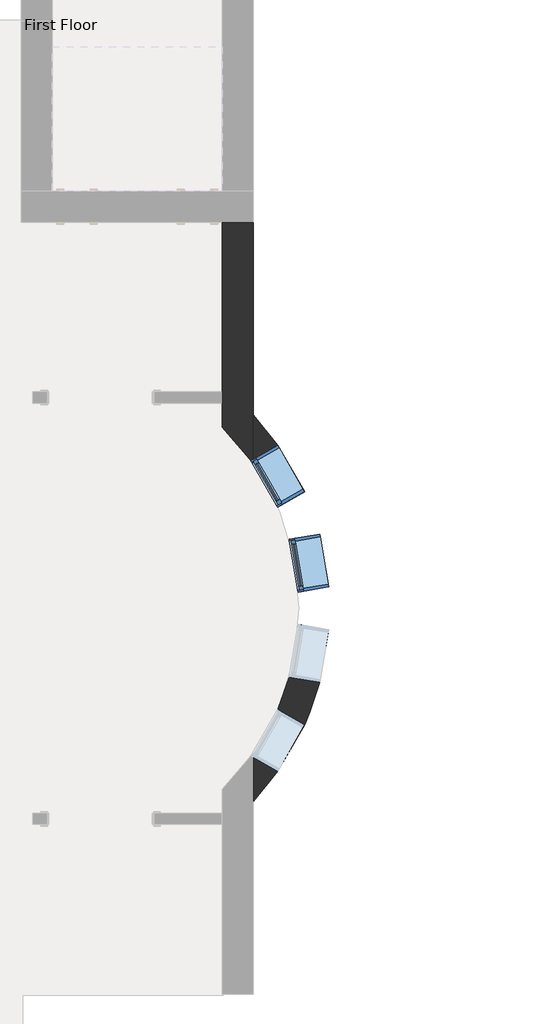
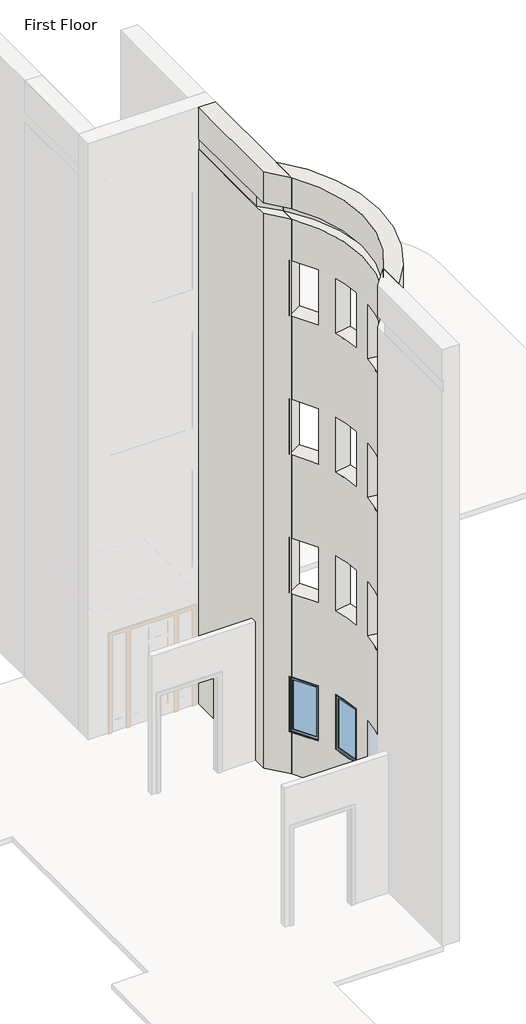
# One storey, part 10 of 23: 2 walls, 2 windows.
"""IFC4 building model written with IfcOpenShell, lengths in millimetres."""

from ifc_helpers import new_model, si_unit, frame, origin, place, context, project, spatial, polyline, circle_curve, transform, mapped, element, save
from ifc_brep_helpers import plane_surface, cylinder_surface, revolved_surface, advanced_brep
from components import window_ed80354a

model = new_model("IFC4")

# Units and contexts
model_context = context("Model", 3, world=origin())
ifc_project = project(units=[si_unit("LENGTHUNIT", "METRE", prefix="MILLI")], contexts=[model_context])

# Site, building, storey
site = spatial("IfcSite", under=ifc_project)
building = spatial("IfcBuilding", under=site)
storey = spatial("IfcBuildingStorey", under=building, Name="First Floor", Elevation=0.0)

# Walls
placement = place(None, origin())
element("IfcWall", 1, ObjectType="Exterior - Brick on Mtl. Stud", at=placement, inside=storey, context=model_context, shape_type="AdvancedBrep", body=[
    advanced_brep(
    [(-24001.3839563, -550.3808133, 0.0), (-24001.3839563, -2483.9558133, 0.0), (-24001.3839563, -2610.9558133, 0.0), (-24001.3839563, -2885.7839656, 0.0), (-24001.3839563, -2885.7839656, 12192.0), (-24001.3839563, -2610.9558133, 12192.0), (-24001.3839563, -2483.9558133, 12192.0), (-24001.3839563, -550.3808133, 12192.0), (-24001.3839563, -2885.7839656, 13106.4), (-24001.3839563, -550.3808133, 13106.4), (-24001.3839563, -550.3808133, 12420.6), (-24001.3839563, -2885.7839656, 12420.6), (-23648.9589563, -3299.6776635, 0.0), (-23648.9589563, -2741.7830793, 0.0), (-23648.9589563, -550.3808133, 0.0), (-23648.9589563, -550.3808133, 13106.4), (-23648.9589563, -2741.7830793, 13106.4), (-23648.9589563, -3299.6776635, 13106.4), (-23648.9589563, -3299.6776635, 12420.6), (-23648.9589563, -2991.1907425, 12420.6), (-23648.9589563, -2991.1907425, 12192.0), (-23648.9589563, -3299.6776635, 12192.0), (-23648.9589563, -3299.6776635, 11277.6), (-23648.9589563, -3250.3894156, 11277.6), (-23648.9589563, -3250.3894156, 10058.4), (-23648.9589563, -3299.6776635, 10058.4), (-23648.9589563, -3299.6776635, 8229.6), (-23648.9589563, -3250.3894156, 8229.6), (-23648.9589563, -3250.3894156, 7010.4), (-23648.9589563, -3299.6776635, 7010.4), (-23648.9589563, -3299.6776635, 5181.6), (-23648.9589563, -3250.3894156, 5181.6), (-23648.9589563, -3250.3894156, 3962.4), (-23648.9589563, -3299.6776635, 3962.4), (-23648.9589563, -3299.6776635, 2133.6), (-23648.9589563, -3250.3894156, 2133.6), (-23648.9589563, -3250.3894156, 914.4), (-23648.9589563, -3299.6776635, 914.4), (-23654.515008, -3291.7661617, 914.4), (-23654.515008, -3291.7661617, 2133.6), (-23654.515008, -3291.7661617, 3962.4), (-23654.515008, -3291.7661617, 5181.6), (-23654.515008, -3291.7661617, 7010.4), (-23654.515008, -3291.7661617, 8229.6), (-23654.515008, -3291.7661617, 10058.4), (-23654.515008, -3291.7661617, 11277.6), (-23988.6839563, -550.3808133, 12192.0), (-23988.6839563, -550.3808133, 12420.6), (-23670.9721676, -3262.9701473, 914.4), (-23670.9721676, -3262.9701473, 2133.6), (-23670.9721676, -3262.9701473, 10058.4), (-23670.9721676, -3262.9701473, 11277.6), (-23670.9721676, -3262.9701473, 3962.4), (-23670.9721676, -3262.9701473, 5181.6), (-23670.9721676, -3262.9701473, 7010.4), (-23670.9721676, -3262.9701473, 8229.6), (-23988.6839563, -2642.86294, 12192.0), (-23988.6839563, -2642.86294, 12420.6)],
    [
        (0, 1),
        (1, 2),
        (2, 3),
        (3, 4),
        (4, 5),
        (5, 6),
        (6, 7),
        (7, 0),
        (8, 9),
        (9, 10),
        (10, 11),
        (11, 8),
        (12, 13),
        (13, 14),
        (14, 15),
        (15, 16),
        (16, 17),
        (17, 18),
        (18, 19),
        (19, 20),
        (20, 21),
        (21, 22),
        (22, 23),
        (23, 24),
        (24, 25),
        (25, 26),
        (26, 27),
        (27, 28),
        (28, 29),
        (29, 30),
        (30, 31),
        (31, 32),
        (32, 33),
        (33, 34),
        (34, 35),
        (35, 36),
        (36, 37),
        (37, 12),
        (0, 14),
        (12, 3, circle_curve(frame((-26001.8788413, -4946.1683133, 0.0), z_axis=(0.0, 0.0, 1.0), x_axis=(0.0, 1.0, 0.0)), 2871.7875)),
        (8, 17, circle_curve(frame((-26001.8788413, -4946.1683133, 13106.4), z_axis=(0.0, 0.0, -1.0), x_axis=(0.0, 1.0, 0.0)), 2871.7875)),
        (15, 9),
        (37, 38, circle_curve(frame((-26001.8788413, -4946.1683133, 914.4), z_axis=(0.0, 0.0, 1.0), x_axis=(0.0, 1.0, 0.0)), 2871.7875)),
        (38, 39),
        (39, 34, circle_curve(frame((-26001.8788413, -4946.1683133, 2133.6), z_axis=(0.0, 0.0, -1.0), x_axis=(0.0, 1.0, 0.0)), 2871.7875)),
        (33, 40, circle_curve(frame((-26001.8788413, -4946.1683133, 3962.4), z_axis=(0.0, 0.0, 1.0), x_axis=(0.0, 1.0, 0.0)), 2871.7875)),
        (40, 41),
        (41, 30, circle_curve(frame((-26001.8788413, -4946.1683133, 5181.6), z_axis=(0.0, 0.0, -1.0), x_axis=(0.0, 1.0, 0.0)), 2871.7875)),
        (29, 42, circle_curve(frame((-26001.8788413, -4946.1683133, 7010.4), z_axis=(0.0, 0.0, 1.0), x_axis=(0.0, 1.0, 0.0)), 2871.7875)),
        (42, 43),
        (43, 26, circle_curve(frame((-26001.8788413, -4946.1683133, 8229.6), z_axis=(0.0, 0.0, -1.0), x_axis=(0.0, 1.0, 0.0)), 2871.7875)),
        (25, 44, circle_curve(frame((-26001.8788413, -4946.1683133, 10058.4), z_axis=(0.0, 0.0, 1.0), x_axis=(0.0, 1.0, 0.0)), 2871.7875)),
        (44, 45),
        (45, 22, circle_curve(frame((-26001.8788413, -4946.1683133, 11277.6), z_axis=(0.0, 0.0, -1.0), x_axis=(0.0, 1.0, 0.0)), 2871.7875)),
        (21, 4, circle_curve(frame((-26001.8788413, -4946.1683133, 12192.0), z_axis=(0.0, 0.0, 1.0), x_axis=(0.0, 1.0, 0.0)), 2871.7875)),
        (11, 18, circle_curve(frame((-26001.8788413, -4946.1683133, 12420.6), z_axis=(0.0, 0.0, -1.0), x_axis=(0.0, 1.0, 0.0)), 2871.7875)),
        (7, 46),
        (46, 47),
        (47, 10),
        (48, 49),
        (49, 39),
        (38, 48),
        (36, 48),
        (35, 49),
        (50, 51),
        (51, 45),
        (44, 50),
        (24, 50),
        (23, 51),
        (52, 53),
        (53, 41),
        (40, 52),
        (32, 52),
        (31, 53),
        (54, 55),
        (55, 43),
        (42, 54),
        (28, 54),
        (27, 55),
        (20, 56, circle_curve(frame((-26001.8788413, -4946.1683133, 12192.0), z_axis=(0.0, 0.0, 1.0), x_axis=(0.0, -1.0, 0.0)), 3059.1125)),
        (56, 46),
        (47, 57),
        (57, 19, circle_curve(frame((-26001.8788413, -4946.1683133, 12420.6), z_axis=(0.0, 0.0, -1.0), x_axis=(0.0, -1.0, 0.0)), 3059.1125)),
        (56, 57),
    ],
    [
        plane_surface(frame((-24001.3839563, -374.1683133, 0.0), z_axis=(-1.0, 0.0, 0.0), x_axis=(0.0, -1.0, 0.0))),
        plane_surface(frame((-23648.9589563, -374.1683133, 0.0), z_axis=(1.0, 0.0, 0.0), x_axis=(0.0, 1.0, 0.0))),
        plane_surface(frame((-24001.3839563, -374.1683133, 0.0), z_axis=(0.0, 0.0, -1.0), x_axis=(1.0, 0.0, 0.0))),
        plane_surface(frame((-24001.3839563, -2812.5683133, 13106.4), z_axis=(0.0, 0.0, 1.0), x_axis=(1.0, 0.0, 0.0))),
        revolved_surface(polyline([(-26001.8788413, -2074.3808132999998, 0.0), (-26001.8788413, -2074.3808132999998, 12192.0)]), (-26001.8788413, -4946.1683133, 0.0), (0.0, 0.0, -1.0)),
        revolved_surface(polyline([(-26001.8788413, -2074.3808132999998, 12420.6), (-26001.8788413, -2074.3808132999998, 13106.4)]), (-26001.8788413, -4946.1683133, 0.0), (0.0, 0.0, -1.0)),
        plane_surface(frame((-26111.1714563, -550.3808133, 0.0), z_axis=(0.0, 1.0, 0.0), x_axis=(1.0, 0.0, 0.0))),
        plane_surface(frame((-23368.4940834, -3792.2330013, 2133.6), z_axis=(0.868213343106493, 0.4961910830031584, 0.0), x_axis=(0.0, 0.0, 1.0))),
        plane_surface(frame((-23063.8858198, -3618.1468675, 914.4), z_axis=(0.0, 0.0, 1.0), x_axis=(-0.8682133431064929, -0.4961910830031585, 0.0))),
        plane_surface(frame((-23366.363904, -3088.8840135, 914.4), z_axis=(0.4961910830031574, -0.8682133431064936, 0.0), x_axis=(-0.8682133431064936, -0.4961910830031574, 0.0))),
        plane_surface(frame((-23366.363904, -3088.8840135, 2133.6), z_axis=(0.0, 0.0, -1.0), x_axis=(-0.8682133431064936, -0.4961910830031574, 0.0))),
        plane_surface(frame((-23368.4940834, -3792.2330013, 11277.6), z_axis=(0.868213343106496, 0.496191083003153, 0.0), x_axis=(0.0, 0.0, 1.0))),
        plane_surface(frame((-23063.8858198, -3618.1468675, 10058.4), z_axis=(0.0, 0.0, 1.0), x_axis=(-0.8682133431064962, -0.4961910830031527, 0.0))),
        plane_surface(frame((-23366.363904, -3088.8840135, 10058.4), z_axis=(0.4961910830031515, -0.8682133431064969, 0.0), x_axis=(-0.8682133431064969, -0.4961910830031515, 0.0))),
        plane_surface(frame((-23366.363904, -3088.8840135, 11277.6), z_axis=(0.0, 0.0, -1.0), x_axis=(-0.8682133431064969, -0.4961910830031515, 0.0))),
        plane_surface(frame((-23368.4940834, -3792.2330013, 5181.6), z_axis=(0.868213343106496, 0.496191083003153, 0.0), x_axis=(0.0, 0.0, 1.0))),
        plane_surface(frame((-23063.8858198, -3618.1468675, 3962.4), z_axis=(0.0, 0.0, 1.0), x_axis=(-0.8682133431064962, -0.4961910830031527, 0.0))),
        plane_surface(frame((-23366.363904, -3088.8840135, 3962.4), z_axis=(0.4961910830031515, -0.8682133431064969, 0.0), x_axis=(-0.8682133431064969, -0.4961910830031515, 0.0))),
        plane_surface(frame((-23366.363904, -3088.8840135, 5181.6), z_axis=(0.0, 0.0, -1.0), x_axis=(-0.8682133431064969, -0.4961910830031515, 0.0))),
        plane_surface(frame((-23368.4940834, -3792.2330013, 8229.6), z_axis=(0.868213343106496, 0.496191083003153, 0.0), x_axis=(0.0, 0.0, 1.0))),
        plane_surface(frame((-23063.8858198, -3618.1468675, 7010.4), z_axis=(0.0, 0.0, 1.0), x_axis=(-0.8682133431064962, -0.4961910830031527, 0.0))),
        plane_surface(frame((-23366.363904, -3088.8840135, 7010.4), z_axis=(0.4961910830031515, -0.8682133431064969, 0.0), x_axis=(-0.8682133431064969, -0.4961910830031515, 0.0))),
        plane_surface(frame((-23366.363904, -3088.8840135, 8229.6), z_axis=(0.0, 0.0, -1.0), x_axis=(-0.8682133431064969, -0.4961910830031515, 0.0))),
        plane_surface(frame((-29757.6589563, -11640.6558133, 12192.0), z_axis=(0.0, 0.0, 1.0), x_axis=(1.0, 0.0, 0.0))),
        plane_surface(frame((-29757.6589563, -11640.6558133, 12420.6), z_axis=(0.0, 0.0, -1.0), x_axis=(1.0, 0.0, 0.0))),
        plane_surface(frame((-23988.6839563, -2642.86294, 12192.0), z_axis=(-1.0, 0.0, 0.0), x_axis=(0.0, 1.0, 0.0))),
        revolved_surface(polyline([(-26001.8788413, -8005.2808133, 12420.6), (-26001.8788413, -8005.2808133, 12192.0)]), (-26001.8788413, -4946.1683133, 12192.0), (0.0, 0.0, 1.0)),
    ],
    [
        (0, [[1, 2, 3, 4, 5, 6, 7, 8]]),
        (0, [[9, 10, 11, 12]]),
        (1, [[13, 14, 15, 16, 17, 18, 19, 20, 21, 22, 23, 24, 25, 26, 27, 28, 29, 30, 31, 32, 33, 34, 35, 36, 37, 38]]),
        (2, [[-3, -2, -1, 39, -14, -13, 40]]),
        (3, [[-9, 41, -17, -16, 42]]),
        (4, [[-40, -38, 43, 44, 45, -34, 46, 47, 48, -30, 49, 50, 51, -26, 52, 53, 54, -22, 55, -4]]),
        (5, [[-41, -12, 56, -18]]),
        (6, [[-42, -15, -39, -8, 57, 58, 59, -10]]),
        (7, [[60, 61, -44, 62]]),
        (8, [[63, -62, -43, -37]]),
        (9, [[-60, -63, -36, 64]]),
        (10, [[-64, -35, -45, -61]]),
        (11, [[65, 66, -53, 67]]),
        (12, [[68, -67, -52, -25]]),
        (13, [[-65, -68, -24, 69]]),
        (14, [[-69, -23, -54, -66]]),
        (15, [[70, 71, -47, 72]]),
        (16, [[73, -72, -46, -33]]),
        (17, [[-70, -73, -32, 74]]),
        (18, [[-74, -31, -48, -71]]),
        (19, [[75, 76, -50, 77]]),
        (20, [[78, -77, -49, -29]]),
        (21, [[-75, -78, -28, 79]]),
        (22, [[-79, -27, -51, -76]]),
        (23, [[80, 81, -57, -7, -6, -5, -55, -21]]),
        (24, [[82, 83, -19, -56, -11, -59]]),
        (25, [[84, -82, -58, -81]]),
        (26, [[-84, -80, -20, -83]]),
    ],
),
])
element("IfcWall", 2, ObjectType="Exterior - Brick on Mtl. Stud", at=placement, inside=storey, context=model_context, shape_type="AdvancedBrep", body=[
    advanced_brep(
    [(-23648.9589563, -3299.6776635, 13106.4), (-23648.9589563, -6592.6589631, 13106.4), (-23648.9589563, -7150.5535473, 13106.4), (-23648.9589563, -2741.7830793, 13106.4), (-23648.9589563, -6592.6589631, 0.0), (-23648.9589563, -3299.6776635, 0.0), (-23648.9589563, -2741.7830793, 0.0), (-23648.9589563, -7150.5535473, 0.0), (-23648.9589563, -3299.6776635, 12420.6), (-23648.9589563, -6592.6589631, 12420.6), (-23648.9589563, -6592.6589631, 914.4), (-23371.3988057, -6098.4435526, 914.4), (-23371.3988057, -6098.4435526, 2133.6), (-23648.9589563, -6592.6589631, 2133.6), (-23648.9589563, -6592.6589631, 3962.4), (-23371.3988057, -6098.4435526, 3962.4), (-23371.3988057, -6098.4435526, 5181.6), (-23648.9589563, -6592.6589631, 5181.6), (-23648.9589563, -6592.6589631, 7010.4), (-23371.3988057, -6098.4435526, 7010.4), (-23371.3988057, -6098.4435526, 8229.6), (-23648.9589563, -6592.6589631, 8229.6), (-23648.9589563, -6592.6589631, 10058.4), (-23371.3988057, -6098.4435526, 10058.4), (-23371.3988057, -6098.4435526, 11277.6), (-23648.9589563, -6592.6589631, 11277.6), (-23648.9589563, -6592.6589631, 12192.0), (-23648.9589563, -3299.6776635, 12192.0), (-23648.9589563, -3299.6776635, 11277.6), (-23371.3988057, -3793.893074, 11277.6), (-23371.3988057, -3793.893074, 10058.4), (-23648.9589563, -3299.6776635, 10058.4), (-23648.9589563, -3299.6776635, 8229.6), (-23371.3988057, -3793.893074, 8229.6), (-23371.3988057, -3793.893074, 7010.4), (-23648.9589563, -3299.6776635, 7010.4), (-23648.9589563, -3299.6776635, 5181.6), (-23371.3988057, -3793.893074, 5181.6), (-23371.3988057, -3793.893074, 3962.4), (-23648.9589563, -3299.6776635, 3962.4), (-23648.9589563, -3299.6776635, 2133.6), (-23371.3988057, -3793.893074, 2133.6), (-23371.3988057, -3793.893074, 914.4), (-23648.9589563, -3299.6776635, 914.4), (-23136.0115527, -4761.8638671, 8229.6), (-23136.0115527, -4761.8638671, 7010.4), (-23239.4803586, -4161.1090368, 7010.4), (-23239.4803586, -4161.1090368, 8229.6), (-23136.0115527, -5130.4727595, 7010.4), (-23136.0115527, -5130.4727595, 8229.6), (-23239.4803586, -5731.2275899, 8229.6), (-23239.4803586, -5731.2275899, 7010.4), (-23136.0115527, -4761.8638671, 5181.6), (-23136.0115527, -4761.8638671, 3962.4), (-23239.4803586, -4161.1090368, 3962.4), (-23239.4803586, -4161.1090368, 5181.6), (-23136.0115527, -5130.4727595, 3962.4), (-23136.0115527, -5130.4727595, 5181.6), (-23239.4803586, -5731.2275899, 5181.6), (-23239.4803586, -5731.2275899, 3962.4), (-23136.0115527, -4761.8638671, 11277.6), (-23136.0115527, -4761.8638671, 10058.4), (-23239.4803586, -4161.1090368, 10058.4), (-23239.4803586, -4161.1090368, 11277.6), (-23136.0115527, -5130.4727595, 10058.4), (-23136.0115527, -5130.4727595, 11277.6), (-23239.4803586, -5731.2275899, 11277.6), (-23239.4803586, -5731.2275899, 10058.4), (-23136.0115527, -4761.8638671, 2133.6), (-23136.0115527, -4761.8638671, 914.4), (-23239.4803586, -4161.1090368, 914.4), (-23239.4803586, -4161.1090368, 2133.6), (-23136.0115527, -5130.4727595, 914.4), (-23136.0115527, -5130.4727595, 2133.6), (-23239.4803586, -5731.2275899, 2133.6), (-23239.4803586, -5731.2275899, 914.4), (-23063.8719855, -6274.1976656, 2133.6), (-23063.8719855, -6274.1976656, 914.4), (-23366.3500697, -6803.4605195, 914.4), (-23366.3500697, -6803.4605195, 2133.6), (-23063.8719855, -3618.1389611, 914.4), (-23063.8719855, -3618.1389611, 2133.6), (-23366.3500697, -3088.8761071, 2133.6), (-23366.3500697, -3088.8761071, 914.4), (-23063.8719855, -6274.1976656, 11277.6), (-23063.8719855, -6274.1976656, 10058.4), (-23366.3500697, -6803.4605195, 10058.4), (-23366.3500697, -6803.4605195, 11277.6), (-23063.8719855, -3618.1389611, 10058.4), (-23063.8719855, -3618.1389611, 11277.6), (-23366.3500697, -3088.8761071, 11277.6), (-23366.3500697, -3088.8761071, 10058.4), (-23063.8719855, -6274.1976656, 5181.6), (-23063.8719855, -6274.1976656, 3962.4), (-23366.3500697, -6803.4605195, 3962.4), (-23366.3500697, -6803.4605195, 5181.6), (-23063.8719855, -3618.1389611, 3962.4), (-23063.8719855, -3618.1389611, 5181.6), (-23366.3500697, -3088.8761071, 5181.6), (-23366.3500697, -3088.8761071, 3962.4), (-23063.8719855, -6274.1976656, 8229.6), (-23063.8719855, -6274.1976656, 7010.4), (-23366.3500697, -6803.4605195, 7010.4), (-23366.3500697, -6803.4605195, 8229.6), (-23063.8719855, -3618.1389611, 7010.4), (-23063.8719855, -3618.1389611, 8229.6), (-23366.3500697, -3088.8761071, 8229.6), (-23366.3500697, -3088.8761071, 7010.4), (-22786.9445035, -4701.7435836, 7010.4), (-22786.9445035, -4701.7435836, 8229.6), (-22890.4133094, -4100.9887532, 8229.6), (-22890.4133094, -4100.9887532, 7010.4), (-22786.9445035, -5190.5930431, 8229.6), (-22786.9445035, -5190.5930431, 7010.4), (-22890.4133094, -5791.3478734, 7010.4), (-22890.4133094, -5791.3478734, 8229.6), (-22786.9445035, -4701.7435836, 3962.4), (-22786.9445035, -4701.7435836, 5181.6), (-22890.4133094, -4100.9887532, 5181.6), (-22890.4133094, -4100.9887532, 3962.4), (-22786.9445035, -5190.5930431, 5181.6), (-22786.9445035, -5190.5930431, 3962.4), (-22890.4133094, -5791.3478734, 3962.4), (-22890.4133094, -5791.3478734, 5181.6), (-22786.9445035, -4701.7435836, 10058.4), (-22786.9445035, -4701.7435836, 11277.6), (-22890.4133094, -4100.9887532, 11277.6), (-22890.4133094, -4100.9887532, 10058.4), (-22786.9445035, -5190.5930431, 11277.6), (-22786.9445035, -5190.5930431, 10058.4), (-22890.4133094, -5791.3478734, 10058.4), (-22890.4133094, -5791.3478734, 11277.6), (-22786.9445035, -4701.7435836, 914.4), (-22786.9445035, -4701.7435836, 2133.6), (-22890.4133094, -4100.9887532, 2133.6), (-22890.4133094, -4100.9887532, 914.4), (-22786.9445035, -5190.5930431, 2133.6), (-22786.9445035, -5190.5930431, 914.4), (-22890.4133094, -5791.3478734, 914.4), (-22890.4133094, -5791.3478734, 2133.6), (-23648.9589563, -3250.3894156, 914.4), (-23648.9589563, -3250.3894156, 2133.6), (-23648.9589563, -3250.3894156, 3962.4), (-23648.9589563, -3250.3894156, 5181.6), (-23648.9589563, -3250.3894156, 7010.4), (-23648.9589563, -3250.3894156, 8229.6), (-23648.9589563, -3250.3894156, 10058.4), (-23648.9589563, -3250.3894156, 11277.6), (-23648.9589563, -2991.1907425, 12192.0), (-23648.9589563, -2991.1907425, 12420.6), (-23648.9589563, -6901.1458841, 12420.6), (-23648.9589563, -6901.1458841, 12192.0), (-23648.9589563, -6641.947211, 11277.6), (-23648.9589563, -6641.947211, 10058.4), (-23648.9589563, -6641.947211, 8229.6), (-23648.9589563, -6641.947211, 7010.4), (-23648.9589563, -6641.947211, 5181.6), (-23648.9589563, -6641.947211, 3962.4), (-23648.9589563, -6641.947211, 2133.6), (-23648.9589563, -6641.947211, 914.4)],
    [
        (0, 1, circle_curve(frame((-26001.8788413, -4946.1683133, 13106.4), z_axis=(0.0, 0.0, -1.0), x_axis=(0.0, 1.0, 0.0)), 2871.7875)),
        (1, 2),
        (2, 3, circle_curve(frame((-26001.8788413, -4946.1683133, 13106.4), z_axis=(0.0, 0.0, 1.0), x_axis=(0.0, 1.0, 0.0)), 3224.2125)),
        (3, 0),
        (4, 5, circle_curve(frame((-26001.8788413, -4946.1683133, 0.0), z_axis=(0.0, 0.0, 1.0), x_axis=(0.0, 1.0, 0.0)), 2871.7875)),
        (5, 6),
        (6, 7, circle_curve(frame((-26001.8788413, -4946.1683133, 0.0), z_axis=(0.0, 0.0, -1.0), x_axis=(0.0, 1.0, 0.0)), 3224.2125)),
        (7, 4),
        (0, 8),
        (8, 9, circle_curve(frame((-26001.8788413, -4946.1683133, 12420.6), z_axis=(0.0, 0.0, -1.0), x_axis=(0.0, 1.0, 0.0)), 2871.7875)),
        (9, 1),
        (4, 10),
        (10, 11, circle_curve(frame((-26001.8788413, -4946.1683133, 914.4), z_axis=(0.0, 0.0, 1.0), x_axis=(0.0, 1.0, 0.0)), 2871.7875)),
        (11, 12),
        (12, 13, circle_curve(frame((-26001.8788413, -4946.1683133, 2133.6), z_axis=(0.0, 0.0, -1.0), x_axis=(0.0, 1.0, 0.0)), 2871.7875)),
        (13, 14),
        (14, 15, circle_curve(frame((-26001.8788413, -4946.1683133, 3962.4), z_axis=(0.0, 0.0, 1.0), x_axis=(0.0, 1.0, 0.0)), 2871.7875)),
        (15, 16),
        (16, 17, circle_curve(frame((-26001.8788413, -4946.1683133, 5181.6), z_axis=(0.0, 0.0, -1.0), x_axis=(0.0, 1.0, 0.0)), 2871.7875)),
        (17, 18),
        (18, 19, circle_curve(frame((-26001.8788413, -4946.1683133, 7010.4), z_axis=(0.0, 0.0, 1.0), x_axis=(0.0, 1.0, 0.0)), 2871.7875)),
        (19, 20),
        (20, 21, circle_curve(frame((-26001.8788413, -4946.1683133, 8229.6), z_axis=(0.0, 0.0, -1.0), x_axis=(0.0, 1.0, 0.0)), 2871.7875)),
        (21, 22),
        (22, 23, circle_curve(frame((-26001.8788413, -4946.1683133, 10058.4), z_axis=(0.0, 0.0, 1.0), x_axis=(0.0, 1.0, 0.0)), 2871.7875)),
        (23, 24),
        (24, 25, circle_curve(frame((-26001.8788413, -4946.1683133, 11277.6), z_axis=(0.0, 0.0, -1.0), x_axis=(0.0, 1.0, 0.0)), 2871.7875)),
        (25, 26),
        (26, 27, circle_curve(frame((-26001.8788413, -4946.1683133, 12192.0), z_axis=(0.0, 0.0, 1.0), x_axis=(0.0, 1.0, 0.0)), 2871.7875)),
        (27, 28),
        (28, 29, circle_curve(frame((-26001.8788413, -4946.1683133, 11277.6), z_axis=(0.0, 0.0, -1.0), x_axis=(0.0, 1.0, 0.0)), 2871.7875)),
        (29, 30),
        (30, 31, circle_curve(frame((-26001.8788413, -4946.1683133, 10058.4), z_axis=(0.0, 0.0, 1.0), x_axis=(0.0, 1.0, 0.0)), 2871.7875)),
        (31, 32),
        (32, 33, circle_curve(frame((-26001.8788413, -4946.1683133, 8229.6), z_axis=(0.0, 0.0, -1.0), x_axis=(0.0, 1.0, 0.0)), 2871.7875)),
        (33, 34),
        (34, 35, circle_curve(frame((-26001.8788413, -4946.1683133, 7010.4), z_axis=(0.0, 0.0, 1.0), x_axis=(0.0, 1.0, 0.0)), 2871.7875)),
        (35, 36),
        (36, 37, circle_curve(frame((-26001.8788413, -4946.1683133, 5181.6), z_axis=(0.0, 0.0, -1.0), x_axis=(0.0, 1.0, 0.0)), 2871.7875)),
        (37, 38),
        (38, 39, circle_curve(frame((-26001.8788413, -4946.1683133, 3962.4), z_axis=(0.0, 0.0, 1.0), x_axis=(0.0, 1.0, 0.0)), 2871.7875)),
        (39, 40),
        (40, 41, circle_curve(frame((-26001.8788413, -4946.1683133, 2133.6), z_axis=(0.0, 0.0, -1.0), x_axis=(0.0, 1.0, 0.0)), 2871.7875)),
        (41, 42),
        (42, 43, circle_curve(frame((-26001.8788413, -4946.1683133, 914.4), z_axis=(0.0, 0.0, 1.0), x_axis=(0.0, 1.0, 0.0)), 2871.7875)),
        (43, 5),
        (44, 45),
        (45, 46, circle_curve(frame((-26001.8788413, -4946.1683133, 7010.4), z_axis=(0.0, 0.0, 1.0), x_axis=(0.0, 1.0, 0.0)), 2871.7875)),
        (46, 47),
        (47, 44, circle_curve(frame((-26001.8788413, -4946.1683133, 8229.6), z_axis=(0.0, 0.0, -1.0), x_axis=(0.0, 1.0, 0.0)), 2871.7875)),
        (48, 49),
        (49, 50, circle_curve(frame((-26001.8788413, -4946.1683133, 8229.6), z_axis=(0.0, 0.0, -1.0), x_axis=(0.0, 1.0, 0.0)), 2871.7875)),
        (50, 51),
        (51, 48, circle_curve(frame((-26001.8788413, -4946.1683133, 7010.4), z_axis=(0.0, 0.0, 1.0), x_axis=(0.0, 1.0, 0.0)), 2871.7875)),
        (52, 53),
        (53, 54, circle_curve(frame((-26001.8788413, -4946.1683133, 3962.4), z_axis=(0.0, 0.0, 1.0), x_axis=(0.0, 1.0, 0.0)), 2871.7875)),
        (54, 55),
        (55, 52, circle_curve(frame((-26001.8788413, -4946.1683133, 5181.6), z_axis=(0.0, 0.0, -1.0), x_axis=(0.0, 1.0, 0.0)), 2871.7875)),
        (56, 57),
        (57, 58, circle_curve(frame((-26001.8788413, -4946.1683133, 5181.6), z_axis=(0.0, 0.0, -1.0), x_axis=(0.0, 1.0, 0.0)), 2871.7875)),
        (58, 59),
        (59, 56, circle_curve(frame((-26001.8788413, -4946.1683133, 3962.4), z_axis=(0.0, 0.0, 1.0), x_axis=(0.0, 1.0, 0.0)), 2871.7875)),
        (60, 61),
        (61, 62, circle_curve(frame((-26001.8788413, -4946.1683133, 10058.4), z_axis=(0.0, 0.0, 1.0), x_axis=(0.0, 1.0, 0.0)), 2871.7875)),
        (62, 63),
        (63, 60, circle_curve(frame((-26001.8788413, -4946.1683133, 11277.6), z_axis=(0.0, 0.0, -1.0), x_axis=(0.0, 1.0, 0.0)), 2871.7875)),
        (64, 65),
        (65, 66, circle_curve(frame((-26001.8788413, -4946.1683133, 11277.6), z_axis=(0.0, 0.0, -1.0), x_axis=(0.0, 1.0, 0.0)), 2871.7875)),
        (66, 67),
        (67, 64, circle_curve(frame((-26001.8788413, -4946.1683133, 10058.4), z_axis=(0.0, 0.0, 1.0), x_axis=(0.0, 1.0, 0.0)), 2871.7875)),
        (68, 69),
        (69, 70, circle_curve(frame((-26001.8788413, -4946.1683133, 914.4), z_axis=(0.0, 0.0, 1.0), x_axis=(0.0, 1.0, 0.0)), 2871.7875)),
        (70, 71),
        (71, 68, circle_curve(frame((-26001.8788413, -4946.1683133, 2133.6), z_axis=(0.0, 0.0, -1.0), x_axis=(0.0, 1.0, 0.0)), 2871.7875)),
        (72, 73),
        (73, 74, circle_curve(frame((-26001.8788413, -4946.1683133, 2133.6), z_axis=(0.0, 0.0, -1.0), x_axis=(0.0, 1.0, 0.0)), 2871.7875)),
        (74, 75),
        (75, 72, circle_curve(frame((-26001.8788413, -4946.1683133, 914.4), z_axis=(0.0, 0.0, 1.0), x_axis=(0.0, 1.0, 0.0)), 2871.7875)),
        (2, 7),
        (6, 3),
        (76, 77),
        (77, 78, circle_curve(frame((-26001.8788413, -4946.1683133, 914.4), z_axis=(0.0, 0.0, -1.0), x_axis=(0.0, 1.0, 0.0)), 3224.2125)),
        (78, 79),
        (79, 76, circle_curve(frame((-26001.8788413, -4946.1683133, 2133.6), z_axis=(0.0, 0.0, 1.0), x_axis=(0.0, 1.0, 0.0)), 3224.2125)),
        (80, 81),
        (81, 82, circle_curve(frame((-26001.8788413, -4946.1683133, 2133.6), z_axis=(0.0, 0.0, 1.0), x_axis=(0.0, 1.0, 0.0)), 3224.2125)),
        (82, 83),
        (83, 80, circle_curve(frame((-26001.8788413, -4946.1683133, 914.4), z_axis=(0.0, 0.0, -1.0), x_axis=(0.0, 1.0, 0.0)), 3224.2125)),
        (84, 85),
        (85, 86, circle_curve(frame((-26001.8788413, -4946.1683133, 10058.4), z_axis=(0.0, 0.0, -1.0), x_axis=(0.0, 1.0, 0.0)), 3224.2125)),
        (86, 87),
        (87, 84, circle_curve(frame((-26001.8788413, -4946.1683133, 11277.6), z_axis=(0.0, 0.0, 1.0), x_axis=(0.0, 1.0, 0.0)), 3224.2125)),
        (88, 89),
        (89, 90, circle_curve(frame((-26001.8788413, -4946.1683133, 11277.6), z_axis=(0.0, 0.0, 1.0), x_axis=(0.0, 1.0, 0.0)), 3224.2125)),
        (90, 91),
        (91, 88, circle_curve(frame((-26001.8788413, -4946.1683133, 10058.4), z_axis=(0.0, 0.0, -1.0), x_axis=(0.0, 1.0, 0.0)), 3224.2125)),
        (92, 93),
        (93, 94, circle_curve(frame((-26001.8788413, -4946.1683133, 3962.4), z_axis=(0.0, 0.0, -1.0), x_axis=(0.0, 1.0, 0.0)), 3224.2125)),
        (94, 95),
        (95, 92, circle_curve(frame((-26001.8788413, -4946.1683133, 5181.6), z_axis=(0.0, 0.0, 1.0), x_axis=(0.0, 1.0, 0.0)), 3224.2125)),
        (96, 97),
        (97, 98, circle_curve(frame((-26001.8788413, -4946.1683133, 5181.6), z_axis=(0.0, 0.0, 1.0), x_axis=(0.0, 1.0, 0.0)), 3224.2125)),
        (98, 99),
        (99, 96, circle_curve(frame((-26001.8788413, -4946.1683133, 3962.4), z_axis=(0.0, 0.0, -1.0), x_axis=(0.0, 1.0, 0.0)), 3224.2125)),
        (100, 101),
        (101, 102, circle_curve(frame((-26001.8788413, -4946.1683133, 7010.4), z_axis=(0.0, 0.0, -1.0), x_axis=(0.0, 1.0, 0.0)), 3224.2125)),
        (102, 103),
        (103, 100, circle_curve(frame((-26001.8788413, -4946.1683133, 8229.6), z_axis=(0.0, 0.0, 1.0), x_axis=(0.0, 1.0, 0.0)), 3224.2125)),
        (104, 105),
        (105, 106, circle_curve(frame((-26001.8788413, -4946.1683133, 8229.6), z_axis=(0.0, 0.0, 1.0), x_axis=(0.0, 1.0, 0.0)), 3224.2125)),
        (106, 107),
        (107, 104, circle_curve(frame((-26001.8788413, -4946.1683133, 7010.4), z_axis=(0.0, 0.0, -1.0), x_axis=(0.0, 1.0, 0.0)), 3224.2125)),
        (108, 109),
        (109, 110, circle_curve(frame((-26001.8788413, -4946.1683133, 8229.6), z_axis=(0.0, 0.0, 1.0), x_axis=(0.0, 1.0, 0.0)), 3224.2125)),
        (110, 111),
        (111, 108, circle_curve(frame((-26001.8788413, -4946.1683133, 7010.4), z_axis=(0.0, 0.0, -1.0), x_axis=(0.0, 1.0, 0.0)), 3224.2125)),
        (112, 113),
        (113, 114, circle_curve(frame((-26001.8788413, -4946.1683133, 7010.4), z_axis=(0.0, 0.0, -1.0), x_axis=(0.0, 1.0, 0.0)), 3224.2125)),
        (114, 115),
        (115, 112, circle_curve(frame((-26001.8788413, -4946.1683133, 8229.6), z_axis=(0.0, 0.0, 1.0), x_axis=(0.0, 1.0, 0.0)), 3224.2125)),
        (116, 117),
        (117, 118, circle_curve(frame((-26001.8788413, -4946.1683133, 5181.6), z_axis=(0.0, 0.0, 1.0), x_axis=(0.0, 1.0, 0.0)), 3224.2125)),
        (118, 119),
        (119, 116, circle_curve(frame((-26001.8788413, -4946.1683133, 3962.4), z_axis=(0.0, 0.0, -1.0), x_axis=(0.0, 1.0, 0.0)), 3224.2125)),
        (120, 121),
        (121, 122, circle_curve(frame((-26001.8788413, -4946.1683133, 3962.4), z_axis=(0.0, 0.0, -1.0), x_axis=(0.0, 1.0, 0.0)), 3224.2125)),
        (122, 123),
        (123, 120, circle_curve(frame((-26001.8788413, -4946.1683133, 5181.6), z_axis=(0.0, 0.0, 1.0), x_axis=(0.0, 1.0, 0.0)), 3224.2125)),
        (124, 125),
        (125, 126, circle_curve(frame((-26001.8788413, -4946.1683133, 11277.6), z_axis=(0.0, 0.0, 1.0), x_axis=(0.0, 1.0, 0.0)), 3224.2125)),
        (126, 127),
        (127, 124, circle_curve(frame((-26001.8788413, -4946.1683133, 10058.4), z_axis=(0.0, 0.0, -1.0), x_axis=(0.0, 1.0, 0.0)), 3224.2125)),
        (128, 129),
        (129, 130, circle_curve(frame((-26001.8788413, -4946.1683133, 10058.4), z_axis=(0.0, 0.0, -1.0), x_axis=(0.0, 1.0, 0.0)), 3224.2125)),
        (130, 131),
        (131, 128, circle_curve(frame((-26001.8788413, -4946.1683133, 11277.6), z_axis=(0.0, 0.0, 1.0), x_axis=(0.0, 1.0, 0.0)), 3224.2125)),
        (132, 133),
        (133, 134, circle_curve(frame((-26001.8788413, -4946.1683133, 2133.6), z_axis=(0.0, 0.0, 1.0), x_axis=(0.0, 1.0, 0.0)), 3224.2125)),
        (134, 135),
        (135, 132, circle_curve(frame((-26001.8788413, -4946.1683133, 914.4), z_axis=(0.0, 0.0, -1.0), x_axis=(0.0, 1.0, 0.0)), 3224.2125)),
        (136, 137),
        (137, 138, circle_curve(frame((-26001.8788413, -4946.1683133, 914.4), z_axis=(0.0, 0.0, -1.0), x_axis=(0.0, 1.0, 0.0)), 3224.2125)),
        (138, 139),
        (139, 136, circle_curve(frame((-26001.8788413, -4946.1683133, 2133.6), z_axis=(0.0, 0.0, 1.0), x_axis=(0.0, 1.0, 0.0)), 3224.2125)),
        (43, 140),
        (140, 141),
        (141, 40),
        (39, 142),
        (142, 143),
        (143, 36),
        (35, 144),
        (144, 145),
        (145, 32),
        (31, 146),
        (146, 147),
        (147, 28),
        (27, 148),
        (148, 149),
        (149, 8),
        (9, 150),
        (150, 151),
        (151, 26),
        (25, 152),
        (152, 153),
        (153, 22),
        (21, 154),
        (154, 155),
        (155, 18),
        (17, 156),
        (156, 157),
        (157, 14),
        (13, 158),
        (158, 159),
        (159, 10),
        (76, 12),
        (11, 77),
        (159, 78),
        (158, 79),
        (41, 81),
        (80, 42),
        (83, 140),
        (82, 141),
        (84, 24),
        (23, 85),
        (153, 86),
        (152, 87),
        (29, 89),
        (88, 30),
        (91, 146),
        (90, 147),
        (92, 16),
        (15, 93),
        (157, 94),
        (156, 95),
        (37, 97),
        (96, 38),
        (99, 142),
        (98, 143),
        (100, 20),
        (19, 101),
        (155, 102),
        (154, 103),
        (33, 105),
        (104, 34),
        (107, 144),
        (106, 145),
        (44, 109),
        (108, 45),
        (111, 46),
        (110, 47),
        (112, 49),
        (48, 113),
        (51, 114),
        (50, 115),
        (52, 117),
        (116, 53),
        (119, 54),
        (118, 55),
        (120, 57),
        (56, 121),
        (59, 122),
        (58, 123),
        (60, 125),
        (124, 61),
        (127, 62),
        (126, 63),
        (128, 65),
        (64, 129),
        (67, 130),
        (66, 131),
        (68, 133),
        (132, 69),
        (135, 70),
        (134, 71),
        (136, 73),
        (72, 137),
        (75, 138),
        (74, 139),
        (151, 148, circle_curve(frame((-26001.8788413, -4946.1683133, 12192.0), z_axis=(0.0, 0.0, 1.0), x_axis=(0.0, -1.0, 0.0)), 3059.1125)),
        (149, 150, circle_curve(frame((-26001.8788413, -4946.1683133, 12420.6), z_axis=(0.0, 0.0, -1.0), x_axis=(0.0, -1.0, 0.0)), 3059.1125)),
    ],
    [
        plane_surface(frame((-26001.8788413, -2074.3808133, 13106.4), z_axis=(0.0, 0.0, 1.0), x_axis=(1.0, 0.0, 0.0))),
        plane_surface(frame((-26001.8788413, -2074.3808133, 0.0), z_axis=(0.0, 0.0, -1.0), x_axis=(-1.0, 0.0, 0.0))),
        revolved_surface(polyline([(-26001.8788413, -2074.3808132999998, 12420.6), (-26001.8788413, -2074.3808132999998, 13106.4)]), (-26001.8788413, -4946.1683133, 0.0), (0.0, 0.0, -1.0)),
        revolved_surface(polyline([(-26001.8788413, -2074.3808132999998, 0.0), (-26001.8788413, -2074.3808132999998, 12192.0)]), (-26001.8788413, -4946.1683133, 0.0), (0.0, 0.0, -1.0)),
        cylinder_surface(frame((-26001.8788413, -4946.1683133, 0.0), z_axis=(0.0, 0.0, 1.0), x_axis=(0.0, 1.0, 0.0)), 3224.2125),
        plane_surface(frame((-23648.9589563, -374.1683133, 0.0), z_axis=(-1.0, 0.0, 0.0), x_axis=(0.0, 1.0, 0.0))),
        plane_surface(frame((-23648.9589563, -9518.1683133, 0.0), z_axis=(-1.0, 0.0, 0.0), x_axis=(0.0, 1.0, 0.0))),
        plane_surface(frame((-24388.5758531, -5517.1184846, 2133.6), z_axis=(-0.49619108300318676, -0.8682133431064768, 0.0), x_axis=(0.8682133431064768, -0.49619108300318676, 0.0))),
        plane_surface(frame((-24388.5758531, -5517.1184846, 914.4), z_axis=(0.0, 0.0, 1.0000000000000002), x_axis=(0.8682133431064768, -0.49619108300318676, 0.0))),
        plane_surface(frame((-24691.0539373, -6046.3813385, 914.4), z_axis=(0.49619108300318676, 0.8682133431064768, 0.0), x_axis=(0.8682133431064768, -0.49619108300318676, 0.0))),
        plane_surface(frame((-24691.0539373, -6046.3813385, 2133.6), z_axis=(0.0, 0.0, -1.0000000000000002), x_axis=(0.8682133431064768, -0.49619108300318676, 0.0))),
        plane_surface(frame((-21742.2615833, -2862.8277211, 2133.6), z_axis=(-0.49619108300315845, 0.8682133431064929, 0.0), x_axis=(-0.8682133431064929, -0.49619108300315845, 0.0))),
        plane_surface(frame((-21742.2615833, -2862.8277211, 914.4), z_axis=(0.0, 0.0, 1.0000000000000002), x_axis=(-0.8682133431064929, -0.49619108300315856, 0.0))),
        plane_surface(frame((-22044.7396675, -2333.5648671, 914.4), z_axis=(0.49619108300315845, -0.8682133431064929, 0.0), x_axis=(-0.8682133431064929, -0.49619108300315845, 0.0))),
        plane_surface(frame((-22044.7396675, -2333.5648671, 2133.6), z_axis=(0.0, 0.0, -1.0), x_axis=(-0.8682133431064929, -0.49619108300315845, 0.0))),
        plane_surface(frame((-24388.5758531, -5517.1184846, 11277.6), z_axis=(-0.4961910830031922, -0.8682133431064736, 0.0), x_axis=(0.8682133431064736, -0.4961910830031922, 0.0))),
        plane_surface(frame((-24388.5758531, -5517.1184846, 10058.4), z_axis=(0.0, 0.0, 1.0), x_axis=(0.8682133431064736, -0.4961910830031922, 0.0))),
        plane_surface(frame((-24691.0539373, -6046.3813385, 10058.4), z_axis=(0.4961910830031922, 0.8682133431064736, 0.0), x_axis=(0.8682133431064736, -0.4961910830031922, 0.0))),
        plane_surface(frame((-24691.0539373, -6046.3813385, 11277.6), z_axis=(0.0, 0.0, -1.0), x_axis=(0.8682133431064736, -0.4961910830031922, 0.0))),
        plane_surface(frame((-21742.2615833, -2862.8277211, 11277.6), z_axis=(-0.49619108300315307, 0.868213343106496, 0.0), x_axis=(-0.868213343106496, -0.49619108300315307, 0.0))),
        plane_surface(frame((-21742.2615833, -2862.8277211, 10058.4), z_axis=(0.0, 0.0, 1.0000000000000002), x_axis=(-0.868213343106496, -0.49619108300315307, 0.0))),
        plane_surface(frame((-22044.7396675, -2333.5648671, 10058.4), z_axis=(0.49619108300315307, -0.868213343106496, 0.0), x_axis=(-0.868213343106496, -0.49619108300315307, 0.0))),
        plane_surface(frame((-22044.7396675, -2333.5648671, 11277.6), z_axis=(0.0, 0.0, -1.0000000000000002), x_axis=(-0.868213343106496, -0.49619108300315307, 0.0))),
        plane_surface(frame((-24388.5758531, -5517.1184846, 5181.6), z_axis=(-0.4961910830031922, -0.8682133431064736, 0.0), x_axis=(0.8682133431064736, -0.4961910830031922, 0.0))),
        plane_surface(frame((-24388.5758531, -5517.1184846, 3962.4), z_axis=(0.0, 0.0, 1.0), x_axis=(0.8682133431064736, -0.4961910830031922, 0.0))),
        plane_surface(frame((-24691.0539373, -6046.3813385, 3962.4), z_axis=(0.4961910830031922, 0.8682133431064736, 0.0), x_axis=(0.8682133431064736, -0.4961910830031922, 0.0))),
        plane_surface(frame((-24691.0539373, -6046.3813385, 5181.6), z_axis=(0.0, 0.0, -1.0), x_axis=(0.8682133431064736, -0.4961910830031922, 0.0))),
        plane_surface(frame((-21742.2615833, -2862.8277211, 5181.6), z_axis=(-0.49619108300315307, 0.868213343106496, 0.0), x_axis=(-0.868213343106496, -0.49619108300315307, 0.0))),
        plane_surface(frame((-21742.2615833, -2862.8277211, 3962.4), z_axis=(0.0, 0.0, 1.0000000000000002), x_axis=(-0.868213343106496, -0.49619108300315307, 0.0))),
        plane_surface(frame((-22044.7396675, -2333.5648671, 3962.4), z_axis=(0.49619108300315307, -0.868213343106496, 0.0), x_axis=(-0.868213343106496, -0.49619108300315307, 0.0))),
        plane_surface(frame((-22044.7396675, -2333.5648671, 5181.6), z_axis=(0.0, 0.0, -1.0000000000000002), x_axis=(-0.868213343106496, -0.49619108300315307, 0.0))),
        plane_surface(frame((-24388.5758531, -5517.1184846, 8229.6), z_axis=(-0.4961910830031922, -0.8682133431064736, 0.0), x_axis=(0.8682133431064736, -0.4961910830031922, 0.0))),
        plane_surface(frame((-24388.5758531, -5517.1184846, 7010.4), z_axis=(0.0, 0.0, 1.0), x_axis=(0.8682133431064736, -0.4961910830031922, 0.0))),
        plane_surface(frame((-24691.0539373, -6046.3813385, 7010.4), z_axis=(0.4961910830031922, 0.8682133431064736, 0.0), x_axis=(0.8682133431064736, -0.4961910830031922, 0.0))),
        plane_surface(frame((-24691.0539373, -6046.3813385, 8229.6), z_axis=(0.0, 0.0, -1.0), x_axis=(0.8682133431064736, -0.4961910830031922, 0.0))),
        plane_surface(frame((-21742.2615833, -2862.8277211, 8229.6), z_axis=(-0.49619108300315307, 0.868213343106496, 0.0), x_axis=(-0.868213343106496, -0.49619108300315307, 0.0))),
        plane_surface(frame((-21742.2615833, -2862.8277211, 7010.4), z_axis=(0.0, 0.0, 1.0000000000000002), x_axis=(-0.868213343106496, -0.49619108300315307, 0.0))),
        plane_surface(frame((-22044.7396675, -2333.5648671, 7010.4), z_axis=(0.49619108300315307, -0.868213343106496, 0.0), x_axis=(-0.868213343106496, -0.49619108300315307, 0.0))),
        plane_surface(frame((-22044.7396675, -2333.5648671, 8229.6), z_axis=(0.0, 0.0, -1.0000000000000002), x_axis=(-0.868213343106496, -0.49619108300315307, 0.0))),
        plane_surface(frame((-23136.0115527, -4761.8638671, 8229.6), z_axis=(-0.16973229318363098, 0.9854902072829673, 0.0), x_axis=(0.9854902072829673, 0.16973229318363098, 0.0))),
        plane_surface(frame((-23136.0115527, -4761.8638671, 7010.4), z_axis=(0.0, 0.0, 1.0), x_axis=(0.9854902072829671, 0.16973229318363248, 0.0))),
        plane_surface(frame((-23239.4803586, -4161.1090368, 7010.4), z_axis=(0.1697322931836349, -0.9854902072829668, 0.0), x_axis=(0.9854902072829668, 0.1697322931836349, 0.0))),
        plane_surface(frame((-23239.4803586, -4161.1090368, 8229.6), z_axis=(0.0, 0.0, -1.0000000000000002), x_axis=(0.9854902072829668, 0.1697322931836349, 0.0))),
        plane_surface(frame((-22786.9445035, -5190.5930431, 8229.6), z_axis=(-0.16973229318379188, -0.9854902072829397, 0.0), x_axis=(-0.9854902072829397, 0.16973229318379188, 0.0))),
        plane_surface(frame((-22786.9445035, -5190.5930431, 7010.4), z_axis=(0.0, 0.0, 1.0), x_axis=(-0.9854902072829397, 0.16973229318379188, 0.0))),
        plane_surface(frame((-22890.4133094, -5791.3478734, 7010.4), z_axis=(0.16973229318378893, 0.9854902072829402, 0.0), x_axis=(-0.9854902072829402, 0.16973229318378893, 0.0))),
        plane_surface(frame((-22890.4133094, -5791.3478734, 8229.6), z_axis=(0.0, 0.0, -1.0000000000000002), x_axis=(-0.9854902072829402, 0.16973229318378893, 0.0))),
        plane_surface(frame((-23136.0115527, -4761.8638671, 5181.6), z_axis=(-0.16973229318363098, 0.9854902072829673, 0.0), x_axis=(0.9854902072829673, 0.16973229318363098, 0.0))),
        plane_surface(frame((-23136.0115527, -4761.8638671, 3962.4), z_axis=(0.0, 0.0, 1.0), x_axis=(0.9854902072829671, 0.16973229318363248, 0.0))),
        plane_surface(frame((-23239.4803586, -4161.1090368, 3962.4), z_axis=(0.1697322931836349, -0.9854902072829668, 0.0), x_axis=(0.9854902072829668, 0.1697322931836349, 0.0))),
        plane_surface(frame((-23239.4803586, -4161.1090368, 5181.6), z_axis=(0.0, 0.0, -1.0000000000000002), x_axis=(0.9854902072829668, 0.1697322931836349, 0.0))),
        plane_surface(frame((-22786.9445035, -5190.5930431, 5181.6), z_axis=(-0.16973229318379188, -0.9854902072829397, 0.0), x_axis=(-0.9854902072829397, 0.16973229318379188, 0.0))),
        plane_surface(frame((-22786.9445035, -5190.5930431, 3962.4), z_axis=(0.0, 0.0, 1.0), x_axis=(-0.9854902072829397, 0.16973229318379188, 0.0))),
        plane_surface(frame((-22890.4133094, -5791.3478734, 3962.4), z_axis=(0.16973229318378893, 0.9854902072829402, 0.0), x_axis=(-0.9854902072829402, 0.16973229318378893, 0.0))),
        plane_surface(frame((-22890.4133094, -5791.3478734, 5181.6), z_axis=(0.0, 0.0, -1.0000000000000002), x_axis=(-0.9854902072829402, 0.16973229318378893, 0.0))),
        plane_surface(frame((-23136.0115527, -4761.8638671, 11277.6), z_axis=(-0.16973229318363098, 0.9854902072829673, 0.0), x_axis=(0.9854902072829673, 0.16973229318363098, 0.0))),
        plane_surface(frame((-23136.0115527, -4761.8638671, 10058.4), z_axis=(0.0, 0.0, 1.0), x_axis=(0.9854902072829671, 0.16973229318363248, 0.0))),
        plane_surface(frame((-23239.4803586, -4161.1090368, 10058.4), z_axis=(0.1697322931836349, -0.9854902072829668, 0.0), x_axis=(0.9854902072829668, 0.1697322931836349, 0.0))),
        plane_surface(frame((-23239.4803586, -4161.1090368, 11277.6), z_axis=(0.0, 0.0, -1.0000000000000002), x_axis=(0.9854902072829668, 0.1697322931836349, 0.0))),
        plane_surface(frame((-22786.9445035, -5190.5930431, 11277.6), z_axis=(-0.16973229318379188, -0.9854902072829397, 0.0), x_axis=(-0.9854902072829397, 0.16973229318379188, 0.0))),
        plane_surface(frame((-22786.9445035, -5190.5930431, 10058.4), z_axis=(0.0, 0.0, 1.0), x_axis=(-0.9854902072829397, 0.16973229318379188, 0.0))),
        plane_surface(frame((-22890.4133094, -5791.3478734, 10058.4), z_axis=(0.16973229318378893, 0.9854902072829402, 0.0), x_axis=(-0.9854902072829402, 0.16973229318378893, 0.0))),
        plane_surface(frame((-22890.4133094, -5791.3478734, 11277.6), z_axis=(0.0, 0.0, -1.0000000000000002), x_axis=(-0.9854902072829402, 0.16973229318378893, 0.0))),
        plane_surface(frame((-23136.0115527, -4761.8638671, 2133.6), z_axis=(-0.1697322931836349, 0.9854902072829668, 0.0), x_axis=(0.9854902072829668, 0.1697322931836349, 0.0))),
        plane_surface(frame((-23136.0115527, -4761.8638671, 914.4), z_axis=(0.0, 0.0, 1.0000000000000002), x_axis=(0.9854902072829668, 0.1697322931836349, 0.0))),
        plane_surface(frame((-23239.4803586, -4161.1090368, 914.4), z_axis=(0.16973229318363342, -0.985490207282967, 0.0), x_axis=(0.985490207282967, 0.16973229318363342, 0.0))),
        plane_surface(frame((-23239.4803586, -4161.1090368, 2133.6), z_axis=(0.0, 0.0, -1.0000000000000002), x_axis=(0.985490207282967, 0.16973229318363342, 0.0))),
        plane_surface(frame((-22786.9445035, -5190.5930431, 2133.6), z_axis=(-0.16973229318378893, -0.9854902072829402, 0.0), x_axis=(-0.9854902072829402, 0.16973229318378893, 0.0))),
        plane_surface(frame((-22786.9445035, -5190.5930431, 914.4), z_axis=(0.0, 0.0, 1.0), x_axis=(-0.9854902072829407, 0.16973229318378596, 0.0))),
        plane_surface(frame((-22890.4133094, -5791.3478734, 914.4), z_axis=(0.16973229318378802, 0.9854902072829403, 0.0), x_axis=(-0.9854902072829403, 0.16973229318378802, 0.0))),
        plane_surface(frame((-22890.4133094, -5791.3478734, 2133.6), z_axis=(0.0, 0.0, -1.0000000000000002), x_axis=(-0.9854902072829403, 0.16973229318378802, 0.0))),
        plane_surface(frame((-29757.6589563, -11640.6558133, 12192.0), z_axis=(0.0, 0.0, 1.0), x_axis=(1.0, 0.0, 0.0))),
        plane_surface(frame((-29757.6589563, -11640.6558133, 12420.6), z_axis=(0.0, 0.0, -1.0), x_axis=(1.0, 0.0, 0.0))),
        revolved_surface(polyline([(-26001.8788413, -8005.2808133, 12420.6), (-26001.8788413, -8005.2808133, 12192.0)]), (-26001.8788413, -4946.1683133, 12192.0), (0.0, 0.0, 1.0)),
    ],
    [
        (0, [[1, 2, 3, 4]]),
        (1, [[5, 6, 7, 8]]),
        (2, [[-1, 9, 10, 11]]),
        (3, [[-5, 12, 13, 14, 15, 16, 17, 18, 19, 20, 21, 22, 23, 24, 25, 26, 27, 28, 29, 30, 31, 32, 33, 34, 35, 36, 37, 38, 39, 40, 41, 42, 43, 44, 45, 46], [47, 48, 49, 50], [51, 52, 53, 54], [55, 56, 57, 58], [59, 60, 61, 62], [63, 64, 65, 66], [67, 68, 69, 70], [71, 72, 73, 74], [75, 76, 77, 78]]),
        (4, [[-3, 79, -7, 80], [81, 82, 83, 84], [85, 86, 87, 88], [89, 90, 91, 92], [93, 94, 95, 96], [97, 98, 99, 100], [101, 102, 103, 104], [105, 106, 107, 108], [109, 110, 111, 112], [113, 114, 115, 116], [117, 118, 119, 120], [121, 122, 123, 124], [125, 126, 127, 128], [129, 130, 131, 132], [133, 134, 135, 136], [137, 138, 139, 140], [141, 142, 143, 144]]),
        (5, [[-4, -80, -6, -46, 145, 146, 147, -42, 148, 149, 150, -38, 151, 152, 153, -34, 154, 155, 156, -30, 157, 158, 159, -9]]),
        (6, [[-2, -11, 160, 161, 162, -28, 163, 164, 165, -24, 166, 167, 168, -20, 169, 170, 171, -16, 172, 173, 174, -12, -8, -79]]),
        (7, [[175, -14, 176, -81]]),
        (8, [[-176, -13, -174, 177, -82]]),
        (9, [[-177, -173, 178, -83]]),
        (10, [[-175, -84, -178, -172, -15]]),
        (11, [[179, -85, 180, -44]]),
        (12, [[-180, -88, 181, -145, -45]]),
        (13, [[-181, -87, 182, -146]]),
        (14, [[-179, -43, -147, -182, -86]]),
        (15, [[183, -26, 184, -89]]),
        (16, [[-184, -25, -165, 185, -90]]),
        (17, [[-185, -164, 186, -91]]),
        (18, [[-183, -92, -186, -163, -27]]),
        (19, [[187, -93, 188, -32]]),
        (20, [[-188, -96, 189, -154, -33]]),
        (21, [[-189, -95, 190, -155]]),
        (22, [[-187, -31, -156, -190, -94]]),
        (23, [[191, -18, 192, -97]]),
        (24, [[-192, -17, -171, 193, -98]]),
        (25, [[-193, -170, 194, -99]]),
        (26, [[-191, -100, -194, -169, -19]]),
        (27, [[195, -101, 196, -40]]),
        (28, [[-196, -104, 197, -148, -41]]),
        (29, [[-197, -103, 198, -149]]),
        (30, [[-195, -39, -150, -198, -102]]),
        (31, [[199, -22, 200, -105]]),
        (32, [[-200, -21, -168, 201, -106]]),
        (33, [[-201, -167, 202, -107]]),
        (34, [[-199, -108, -202, -166, -23]]),
        (35, [[203, -109, 204, -36]]),
        (36, [[-204, -112, 205, -151, -37]]),
        (37, [[-205, -111, 206, -152]]),
        (38, [[-203, -35, -153, -206, -110]]),
        (39, [[-47, 207, -113, 208]]),
        (40, [[-48, -208, -116, 209]]),
        (41, [[-49, -209, -115, 210]]),
        (42, [[-50, -210, -114, -207]]),
        (43, [[-117, 211, -51, 212]]),
        (44, [[-118, -212, -54, 213]]),
        (45, [[-119, -213, -53, 214]]),
        (46, [[-120, -214, -52, -211]]),
        (47, [[-55, 215, -121, 216]]),
        (48, [[-56, -216, -124, 217]]),
        (49, [[-57, -217, -123, 218]]),
        (50, [[-58, -218, -122, -215]]),
        (51, [[-125, 219, -59, 220]]),
        (52, [[-126, -220, -62, 221]]),
        (53, [[-127, -221, -61, 222]]),
        (54, [[-128, -222, -60, -219]]),
        (55, [[-63, 223, -129, 224]]),
        (56, [[-64, -224, -132, 225]]),
        (57, [[-65, -225, -131, 226]]),
        (58, [[-66, -226, -130, -223]]),
        (59, [[-133, 227, -67, 228]]),
        (60, [[-134, -228, -70, 229]]),
        (61, [[-135, -229, -69, 230]]),
        (62, [[-136, -230, -68, -227]]),
        (63, [[-71, 231, -137, 232]]),
        (64, [[-72, -232, -140, 233]]),
        (65, [[-73, -233, -139, 234]]),
        (66, [[-74, -234, -138, -231]]),
        (67, [[-141, 235, -75, 236]]),
        (68, [[-142, -236, -78, 237]]),
        (69, [[-143, -237, -77, 238]]),
        (70, [[-144, -238, -76, -235]]),
        (71, [[239, -157, -29, -162]]),
        (72, [[240, -160, -10, -159]]),
        (73, [[-239, -161, -240, -158]]),
    ],
),
])

# Windows
window_shape = window_ed80354a(model_context)
element("IfcWindow", 3, ObjectType="Fixed : 24\" x 48\"", at=placement, inside=storey, context=model_context, shape_type="MappedRepresentation", body=[
    mapped(window_shape, transform((-23350.7429238, -3474.9055042, 0.0), x_axis=(0.4961910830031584, -0.868213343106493, 0.0), y_axis=(0.868213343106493, 0.4961910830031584, 0.0), z_axis=(0.0, 0.0, 1.0))),
])
element("IfcWindow", 4, ObjectType="Fixed : 24\" x 48\"", at=placement, inside=storey, context=model_context, shape_type="MappedRepresentation", body=[
    mapped(window_shape, transform((-23007.6234621, -4469.1246771, 0.0), x_axis=(0.1697322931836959, -0.9854902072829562, 0.0), y_axis=(0.9854902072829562, 0.1697322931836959, 0.0), z_axis=(0.0, 0.0, 1.0))),
])

save(model, "model.ifc")
